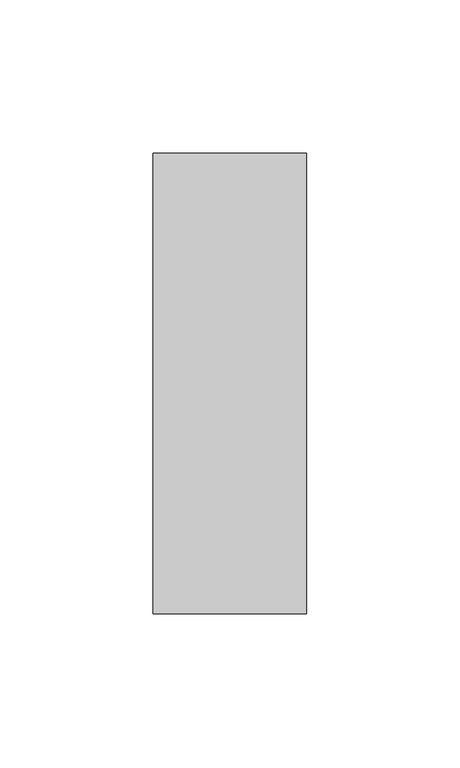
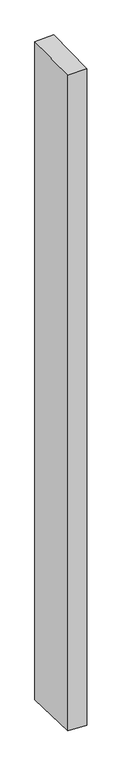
"""IFC4 building model written with IfcOpenShell, lengths in millimetres: member geometry, Прямоугольный импост : 50 x 150 мм."""

from ifc_helpers import new_model, si_unit, origin, place, context, project, spatial, faceted_brep, source, transform, mapped, element, save


def member_087e74ed(model_context):
    return source(origin(), model_context, "Body", "Brep", [
        faceted_brep([(-25.0, 75.0, 0.8766636), (25.0, 75.0, 2.0877538), (25.0, 75.0, -1829.6375803), (-25.0, 75.0, -1828.2275337), (-25.0, -75.0, -2.0877538), (-25.0, -75.0, -1823.3565029), (25.0, -75.0, -0.8766636), (25.0, -75.0, -1824.7665496)], [[[0, 1, 2, 3]], [[4, 0, 3, 5]], [[6, 4, 5, 7]], [[1, 6, 7, 2]], [[1, 0, 4, 6]], [[2, 7, 5, 3]]]),
    ])


if __name__ == "__main__":
    model = new_model("IFC4")
    model_context = context("Model", 3, world=origin())
    ifc_project = project(units=[si_unit("LENGTHUNIT", "METRE", prefix="MILLI")], contexts=[model_context])
    site = spatial("IfcSite", under=ifc_project)
    building = spatial("IfcBuilding", under=site)
    placement = place(None, origin())
    member_shape = member_087e74ed(model_context)
    element("IfcMember", 1, ObjectType="Прямоугольный импост : 50 x 150 мм", at=placement, inside=building, context=model_context, shape_type="MappedRepresentation", body=[
        mapped(member_shape, transform((0.0, 0.0, 0.0), x_axis=(1.0, 0.0, 0.0), y_axis=(0.0, 1.0, 0.0), z_axis=(0.0, 0.0, 1.0))),
    ])
    save(model, "model.ifc")
